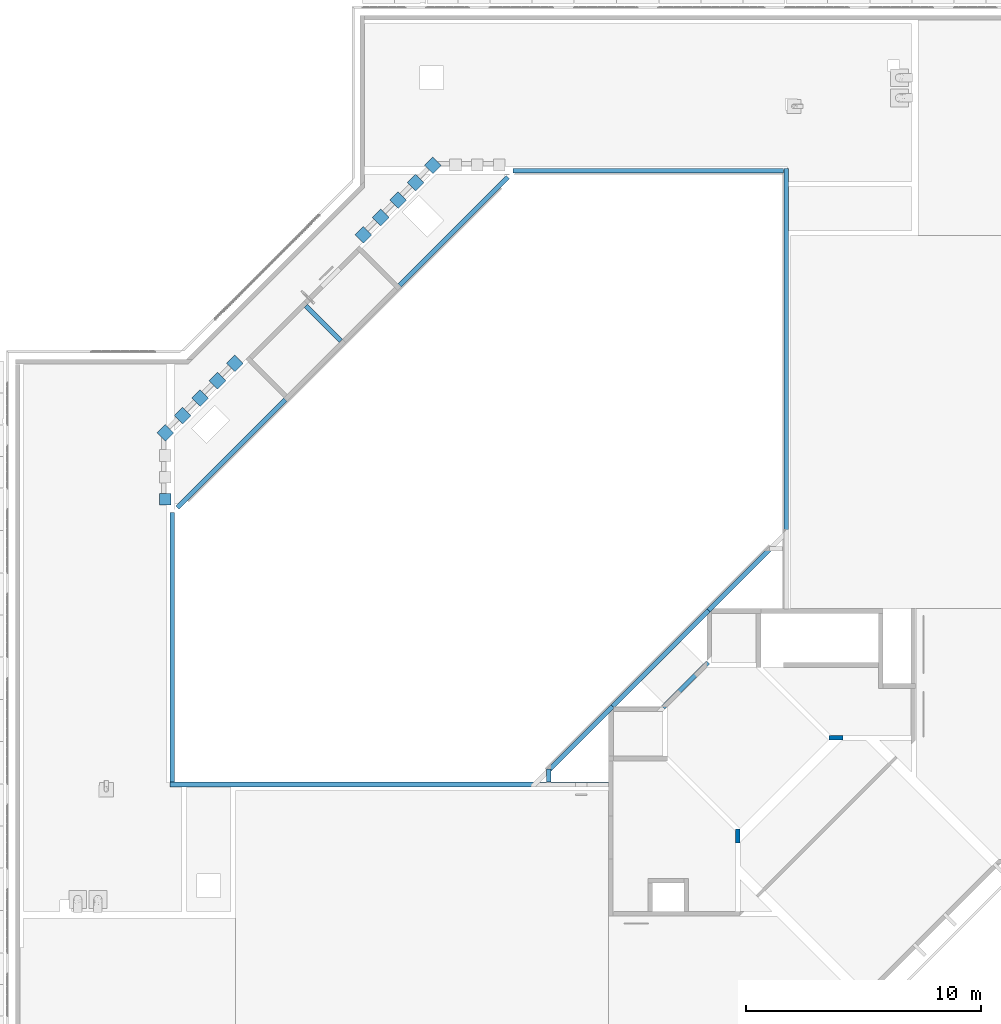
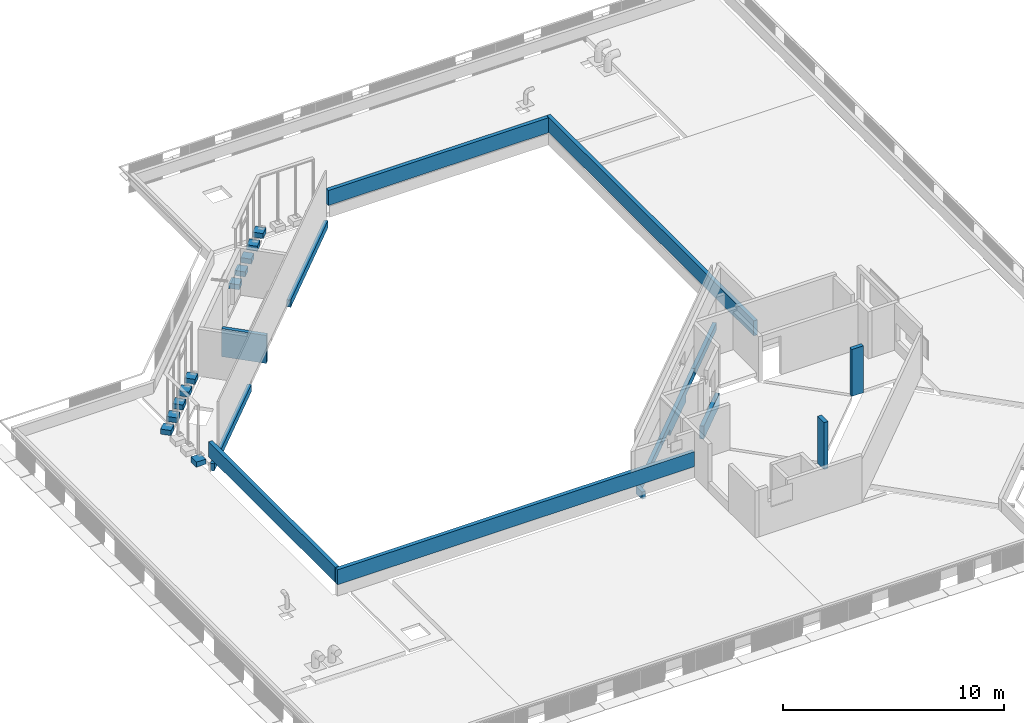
# One storey, part 1 of 37: 23 beams, 2 columns.
"""IFC4X3_ADD2 building model written with IfcOpenShell, lengths in millimetres."""

from ifc_helpers import new_model, si_unit, direction, frame, frame_2d, origin_with_axes, origin_2d_with_axis, place, context, subcontext, project, spatial, polyline, rectangle, outline, extrude, source, transform, mapped, material, type_object, type_shapes, element, save


model = new_model("IFC4X3_ADD2")

# Units and contexts
model_context = context("Model", 3, precision=1e-05, world=origin_with_axes(), true_north=direction((0.0, 1.0)))
body_context = subcontext(model_context, "Body", "Model", "MODEL_VIEW")
ifc_project = project(units=[si_unit("LENGTHUNIT", "METRE", prefix="MILLI"), si_unit("AREAUNIT", "SQUARE_METRE"), si_unit("VOLUMEUNIT", "CUBIC_METRE"), si_unit("PLANEANGLEUNIT", "RADIAN"), si_unit("TIMEUNIT", "SECOND"), si_unit("MASSUNIT", "GRAM")], contexts=[model_context])

# Site, building, storey
site_placement = place(None, origin_with_axes())
site = spatial("IfcSite", under=ifc_project, at=site_placement, Name="Site", CompositionType="ELEMENT")
building_placement = place(site_placement, origin_with_axes())
building = spatial("IfcBuilding", under=site, at=building_placement, Name="IFC Building Story")
storey_placement = place(building_placement, frame((0.0, 0.0, 14400.0), z_axis=(0.0, 0.0, 1.0), x_axis=(1.0, 0.0, 0.0)))
storey = spatial("IfcBuildingStorey", under=building, at=storey_placement, Name="040", Elevation=14400.0)

# Columns
ifc_material_1 = material(Name="<Unnamed>")
column_type_1 = type_object("IfcColumnType", Name="BB_XX_Kolom_ rechthoekig_ center-center_GTL_200 mm x 600 mm", PredefinedType="NOTDEFINED")
shared_shape_1 = source(origin_with_axes(), body_context, "Body", "SweptSolid", [
    extrude(rectangle(XDim=600.0, YDim=200.0, at=origin_2d_with_axis()), frame((-10416.0050506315, 14600.0, 14200.0), z_axis=(0.0, 0.0, 1.0), x_axis=(1.0, 0.0, 0.0)), (0.0, 0.0, 1.0), 2600.0),
])
type_shapes(column_type_1, [shared_shape_1])
column_1_placement = place(storey_placement, frame((0.0, 0.0, -14400.0), z_axis=(0.0, 0.0, 1.0), x_axis=(1.0, 0.0, 0.0)))
element("IfcColumn", 1, at=column_1_placement, inside=storey, type_object=column_type_1, material=ifc_material_1, Name="BB_XX_Kolom, rechthoekig, center-center_GTL:200 mm x 600 mm", ObjectType="200 mm x 600 mm", PredefinedType="COLUMN", context=body_context, shape_type="MappedRepresentation", body=[
    mapped(shared_shape_1, transform((0.0, 0.0, 0.0))),
])
column_type_2 = type_object("IfcColumnType", Name="BB_XX_Kolom_ rechthoekig_ center-center_GTL_200 mm x 600 mm1", PredefinedType="NOTDEFINED")
shared_shape_2 = source(origin_with_axes(), body_context, "Body", "SweptSolid", [
    extrude(rectangle(XDim=599.9999999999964, YDim=200.0, at=frame_2d((0.0, 0.0), x_axis=(0.0, 1.0))), frame((-14600.0, 10416.0050506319, 14200.0), z_axis=(0.0, 0.0, 1.0), x_axis=(1.0, 0.0, 0.0)), (0.0, 0.0, 1.0), 2600.0),
])
type_shapes(column_type_2, [shared_shape_2])
column_2_placement = place(storey_placement, frame((0.0, 0.0, -14400.0), z_axis=(0.0, 0.0, 1.0), x_axis=(1.0, 0.0, 0.0)))
element("IfcColumn", 2, at=column_2_placement, inside=storey, type_object=column_type_2, material=ifc_material_1, Name="BB_XX_Kolom, rechthoekig, center-center_GTL:200 mm x 600 mm", ObjectType="200 mm x 600 mm", PredefinedType="COLUMN", context=body_context, shape_type="MappedRepresentation", body=[
    mapped(shared_shape_2, transform((0.0, 0.0, 0.0))),
])

# Beams
ifc_material_2 = material(Name="BB_Beton_Bestaand")
beam_type_1 = type_object("IfcBeamType", Name="BB_XX_Betonbalk_ rechthoekig_ center-center_SFB_190 x 1550 mm", PredefinedType="NOTDEFINED")
shared_shape_3 = source(origin_with_axes(), body_context, "Body", "SweptSolid", [
    extrude(rectangle(XDim=2099.99999999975, YDim=190.0, at=origin_2d_with_axis()), frame((-1.250555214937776e-10, 0.0, -775.0), z_axis=(0.0, 0.0, 1.0), x_axis=(1.0, 0.0, 0.0)), (0.0, 0.0, 1.0), 1550.0),
])
type_shapes(beam_type_1, [shared_shape_3])
beam_1_placement = place(storey_placement, frame((-32264.0349954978, 32264.0349954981, -575.0), z_axis=(0.0, 0.0, 1.0), x_axis=(-0.7071067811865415, 0.7071067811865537, 0.0)))
element("IfcBeam", 3, at=beam_1_placement, inside=storey, type_object=beam_type_1, material=ifc_material_2, Name="BB_XX_Betonbalk, rechthoekig, center-center_SFB:190 x 1550 mm", ObjectType="190 x 1550 mm", PredefinedType="BEAM", context=body_context, shape_type="MappedRepresentation", body=[
    mapped(shared_shape_3, transform((0.0, 0.0, 0.0))),
])
beam_type_2 = type_object("IfcBeamType", Name="BB_XX_Betonbalk_ rechthoekig_ center-center_SFB_200 x 720 mm43", PredefinedType="NOTDEFINED")
shared_shape_4 = source(origin_with_axes(), body_context, "Body", "SweptSolid", [
    extrude(rectangle(XDim=2711.19042329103, YDim=200.0, at=frame_2d((0.0, 0.0), x_axis=(0.7069491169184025, 0.7072644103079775))), frame((-16817.81939409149, 16845.66967127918, 13480.0), z_axis=(0.0, 0.0, 1.0), x_axis=(1.0, 0.0, 0.0)), (0.0, 0.0, 1.0), 720.0),
])
type_shapes(beam_type_2, [shared_shape_4])
beam_2_placement = place(storey_placement, frame((0.0, 0.0, -14400.0), z_axis=(0.0, 0.0, 1.0), x_axis=(1.0, 0.0, 0.0)))
element("IfcBeam", 4, at=beam_2_placement, inside=storey, type_object=beam_type_2, material=ifc_material_2, Name="BB_XX_Betonbalk, rechthoekig, center-center_SFB:200 x 720 mm", ObjectType="200 x 720 mm", PredefinedType="BEAM", context=body_context, shape_type="MappedRepresentation", body=[
    mapped(shared_shape_4, transform((0.0, 0.0, 0.0))),
])
beam_type_3 = type_object("IfcBeamType", Name="BB_XX_Betonbalk_ rechthoekig_ center-center_SFB_190 x 400 mm39", PredefinedType="NOTDEFINED")
shared_shape_5 = source(origin_with_axes(), body_context, "Body", "SweptSolid", [
    extrude(rectangle(XDim=552.1070417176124, YDim=190.0, at=frame_2d((0.0, 0.0), x_axis=(0.0, 1.0))), frame((-22649.8526351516, 12983.75352086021, 13800.0), z_axis=(0.0, 0.0, 1.0), x_axis=(1.0, 0.0, 0.0)), (0.0, 0.0, 1.0), 400.0),
])
type_shapes(beam_type_3, [shared_shape_5])
beam_3_placement = place(storey_placement, frame((0.0, 0.0, -14400.0), z_axis=(0.0, 0.0, 1.0), x_axis=(1.0, 0.0, 0.0)))
element("IfcBeam", 5, at=beam_3_placement, inside=storey, type_object=beam_type_3, material=ifc_material_2, Name="BB_XX_Betonbalk, rechthoekig, center-center_SFB:190 x 400 mm", ObjectType="190 x 400 mm", PredefinedType="BEAM", context=body_context, shape_type="MappedRepresentation", body=[
    mapped(shared_shape_5, transform((0.0, 0.0, 0.0))),
])
beam_type_4 = type_object("IfcBeamType", Name="BB_XX_Betonbalk_ rechthoekig_ center-center_SFB_500 x 280 mm", PredefinedType="NOTDEFINED")
shared_shape_6 = source(origin_with_axes(), body_context, "Body", "SweptSolid", [
    extrude(rectangle(XDim=500.0, YDim=500.000000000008, at=frame_2d((0.0, 0.0), x_axis=(0.0, 1.0))), frame((1.542224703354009, 0.0, -140.0), z_axis=(0.0, 0.0, 1.0), x_axis=(1.0, 0.0, 0.0)), (0.0, 0.0, 1.0), 280.0),
])
type_shapes(beam_type_4, [shared_shape_6])
for number, where, z_axis, x_axis in (
    (6, (-39010.0, 24766.0104480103, -60.0), (0.0, 0.0, 1.0), (0.0, 1.0, 0.0)),
    (7, (-38995.5025253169, 27597.3192667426, -60.0), (0.0, 0.0, 1.0), (-0.7071067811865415, 0.7071067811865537, 0.0)),
    (8, (-38260.6002118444, 28330.0405451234, -60.0), (0.0, 0.0, 1.0), (-0.7071067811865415, 0.7071067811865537, 0.0)),
    (9, (-37519.2286091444, 29073.5931829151, -60.0), (0.0, 0.0, 1.0), (-0.7071067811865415, 0.7071067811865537, 0.0)),
    (10, (-36776.7664888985, 29816.055303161, -60.0), (0.0, 0.0, 1.0), (-0.7071067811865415, 0.7071067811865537, 0.0)),
    (11, (-36034.3043686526, 30558.5174234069, -60.0), (0.0, 0.0, 1.0), (-0.7071067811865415, 0.7071067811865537, 0.0)),
    (12, (-30558.5174234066, 36034.3043686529, -60.0), (0.0, 0.0, 1.0), (-0.7071067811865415, 0.7071067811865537, 0.0)),
    (13, (-29816.0553031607, 36776.7664888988, -60.0), (0.0, 0.0, 1.0), (-0.7071067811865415, 0.7071067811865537, 0.0)),
    (14, (-29073.5931829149, 37519.2286091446, -60.0), (0.0, 0.0, 1.0), (-0.7071067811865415, 0.7071067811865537, 0.0)),
    (15, (-28331.131062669, 38261.6907293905, -60.0), (0.0, 0.0, 1.0), (-0.7071067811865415, 0.7071067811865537, 0.0)),
    (16, (-27597.3192667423, 38995.5025253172, -60.0), (0.0, 0.0, 1.0), (-0.7071067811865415, 0.7071067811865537, 0.0)),
):
    element("IfcBeam", number, at=place(storey_placement, frame(where, z_axis=z_axis, x_axis=x_axis)), inside=storey, type_object=beam_type_4, material=ifc_material_2, Name="BB_XX_Betonbalk, rechthoekig, center-center_SFB:500 x 280 mm", ObjectType="500 x 280 mm", PredefinedType="BEAM", context=body_context, shape_type="MappedRepresentation", body=[
        mapped(shared_shape_6, transform((0.0, 0.0, 0.0))),
    ])
beam_type_5 = type_object("IfcBeamType", Name="BB_XX_Betonbalk_ rechthoekig_ center-center_SFB_190 x 400 mm43", PredefinedType="NOTDEFINED")
shared_shape_7 = source(origin_with_axes(), body_context, "Body", "SweptSolid", [
    extrude(rectangle(XDim=6518.675609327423, YDim=190.0000000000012, at=frame_2d((0.0, 0.0), x_axis=(0.7071067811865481, 0.7071067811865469))), frame((-26706.62511651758, 36187.99056660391, 13800.0), z_axis=(0.0, 0.0, 1.0), x_axis=(1.0, 0.0, 0.0)), (0.0, 0.0, 1.0), 400.0),
])
type_shapes(beam_type_5, [shared_shape_7])
beam_4_placement = place(storey_placement, frame((0.0, 0.0, -14400.0), z_axis=(0.0, 0.0, 1.0), x_axis=(1.0, 0.0, 0.0)))
element("IfcBeam", 17, at=beam_4_placement, inside=storey, type_object=beam_type_5, material=ifc_material_2, Name="BB_XX_Betonbalk, rechthoekig, center-center_SFB:190 x 400 mm", ObjectType="190 x 400 mm", PredefinedType="BEAM", context=body_context, shape_type="MappedRepresentation", body=[
    mapped(shared_shape_7, transform((0.0, 0.0, 0.0))),
])
beam_type_6 = type_object("IfcBeamType", Name="BB_XX_Betonbalk_ rechthoekig_ center-center_SFB_190 x 400 mm45", PredefinedType="NOTDEFINED")
shared_shape_8 = source(origin_with_axes(), body_context, "Body", "SweptSolid", [
    extrude(rectangle(XDim=6504.12920643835, YDim=190.0000000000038, at=frame_2d((0.0, 0.0), x_axis=(0.7071067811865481, 0.7071067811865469))), frame((-36182.84763654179, 26711.76804657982, 13800.0), z_axis=(0.0, 0.0, 1.0), x_axis=(1.0, 0.0, 0.0)), (0.0, 0.0, 1.0), 400.0),
])
type_shapes(beam_type_6, [shared_shape_8])
beam_5_placement = place(storey_placement, frame((0.0, 0.0, -14400.0), z_axis=(0.0, 0.0, 1.0), x_axis=(1.0, 0.0, 0.0)))
element("IfcBeam", 18, at=beam_5_placement, inside=storey, type_object=beam_type_6, material=ifc_material_2, Name="BB_XX_Betonbalk, rechthoekig, center-center_SFB:190 x 400 mm", ObjectType="190 x 400 mm", PredefinedType="BEAM", context=body_context, shape_type="MappedRepresentation", body=[
    mapped(shared_shape_8, transform((0.0, 0.0, 0.0))),
])
beam_type_7 = type_object("IfcBeamType", Name="BB_XX_Betonbalk_ rechthoekig_ center-center_SFB_200 x 830 mm", PredefinedType="NOTDEFINED")
shared_shape_9 = source(origin_with_axes(), body_context, "Body", "SweptSolid", [
    extrude(rectangle(XDim=11526.783353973, YDim=200.0, at=origin_2d_with_axis()), frame((-75.22947985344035, 0.0, -415.0), z_axis=(0.0, 0.0, 1.0), x_axis=(1.0, 0.0, 0.0)), (0.0, 0.0, 1.0), 830.0),
])
type_shapes(beam_type_7, [shared_shape_9])
beam_6_placement = place(storey_placement, frame((-18330.8662630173, 38769.9959341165, 835.0), z_axis=(0.0, 0.0, 1.0), x_axis=(1.0, 0.0, 0.0)))
element("IfcBeam", 19, at=beam_6_placement, inside=storey, type_object=beam_type_7, material=ifc_material_2, Name="BB_XX_Betonbalk, rechthoekig, center-center_SFB:200 x 830 mm", ObjectType="200 x 830 mm", PredefinedType="BEAM", context=body_context, shape_type="MappedRepresentation", body=[
    mapped(shared_shape_9, transform((0.0, 0.0, 0.0))),
])
beam_type_8 = type_object("IfcBeamType", Name="BB_XX_Betonbalk_ rechthoekig_ center-center_SFB_200 x 830 mm1", PredefinedType="NOTDEFINED")
shared_shape_10 = source(origin_with_axes(), body_context, "Body", "SweptSolid", [
    extrude(rectangle(XDim=18769.9959341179, YDim=200.0, at=origin_2d_with_axis()), frame((3519.13373698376, 0.0, -415.0), z_axis=(0.0, 0.0, 1.0), x_axis=(1.0, 0.0, 0.0)), (0.0, 0.0, 1.0), 830.0),
])
type_shapes(beam_type_8, [shared_shape_10])
beam_7_placement = place(storey_placement, frame((-12530.0040658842, 33004.1317040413, 835.0), z_axis=(0.0, 0.0, 1.0), x_axis=(0.0, -1.0, 0.0)))
element("IfcBeam", 20, at=beam_7_placement, inside=storey, type_object=beam_type_8, material=ifc_material_2, Name="BB_XX_Betonbalk, rechthoekig, center-center_SFB:200 x 830 mm", ObjectType="200 x 830 mm", PredefinedType="BEAM", context=body_context, shape_type="MappedRepresentation", body=[
    mapped(shared_shape_10, transform((0.0, 0.0, 0.0))),
])
beam_type_9 = type_object("IfcBeamType", Name="BB_XX_Betonbalk_ rechthoekig_ center-center_SFB_200 x 830 mm3", PredefinedType="NOTDEFINED")
shared_shape_11 = source(origin_with_axes(), body_context, "Body", "SweptSolid", [
    extrude(rectangle(XDim=11488.608017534, YDim=200.0, at=origin_2d_with_axis()), frame((-56.14384457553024, 0.0, -415.0), z_axis=(0.0, 0.0, 1.0), x_axis=(1.0, 0.0, 0.0)), (0.0, 0.0, 1.0), 830.0),
])
type_shapes(beam_type_9, [shared_shape_11])
beam_8_placement = place(storey_placement, frame((-38700.0, 18400.8642300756, 835.0), z_axis=(0.0, 0.0, 1.0), x_axis=(0.0, -1.0, 0.0)))
element("IfcBeam", 21, at=beam_8_placement, inside=storey, type_object=beam_type_9, material=ifc_material_2, Name="BB_XX_Betonbalk, rechthoekig, center-center_SFB:200 x 830 mm", ObjectType="200 x 830 mm", PredefinedType="BEAM", context=body_context, shape_type="MappedRepresentation", body=[
    mapped(shared_shape_11, transform((0.0, 0.0, 0.0))),
])
beam_type_10 = type_object("IfcBeamType", Name="BB_XX_Betonbalk_ rechthoekig_ center-center_SFB_200 x 830 mm5", PredefinedType="NOTDEFINED")
shared_shape_12 = source(origin_with_axes(), body_context, "Body", "SweptSolid", [
    extrude(rectangle(XDim=18689.9999999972, YDim=200.0, at=origin_2d_with_axis()), frame((3514.13373698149, 0.0, -415.0), z_axis=(0.0, 0.0, 1.0), x_axis=(1.0, 0.0, 0.0)), (0.0, 0.0, 1.0), 830.0),
])
type_shapes(beam_type_10, [shared_shape_12])
beam_9_placement = place(storey_placement, frame((-32969.1337369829, 12600.004065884, 835.0), z_axis=(0.0, 0.0, 1.0), x_axis=(1.0, 0.0, 0.0)))
element("IfcBeam", 22, at=beam_9_placement, inside=storey, type_object=beam_type_10, material=ifc_material_2, Name="BB_XX_Betonbalk, rechthoekig, center-center_SFB:200 x 830 mm", ObjectType="200 x 830 mm", PredefinedType="BEAM", context=body_context, shape_type="MappedRepresentation", body=[
    mapped(shared_shape_12, transform((0.0, 0.0, 0.0))),
])
beam_type_11 = type_object("IfcBeamType", Name="BB_XX_Betonbalk_ rechthoekig_ center-center_SFB_190 x 400 mm47", PredefinedType="NOTDEFINED")
shared_shape_13 = source(origin_with_axes(), body_context, "Body", "SweptSolid", [
    extrude(rectangle(XDim=3759.76592469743, YDim=189.9999999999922, at=frame_2d((0.0, 0.0), x_axis=(0.7071067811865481, 0.7071067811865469))), frame((-14511.08162038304, 21358.84076450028, 13800.0), z_axis=(0.0, 0.0, 1.0), x_axis=(1.0, 0.0, 0.0)), (0.0, 0.0, 1.0), 400.0),
])
type_shapes(beam_type_11, [shared_shape_13])
beam_10_placement = place(storey_placement, frame((0.0, 0.0, -14400.0), z_axis=(0.0, 0.0, 1.0), x_axis=(1.0, 0.0, 0.0)))
element("IfcBeam", 23, at=beam_10_placement, inside=storey, type_object=beam_type_11, material=ifc_material_2, Name="BB_XX_Betonbalk, rechthoekig, center-center_SFB:190 x 400 mm", ObjectType="190 x 400 mm", PredefinedType="BEAM", context=body_context, shape_type="MappedRepresentation", body=[
    mapped(shared_shape_13, transform((0.0, 0.0, 0.0))),
])
beam_type_12 = type_object("IfcBeamType", Name="BB_XX_Betonbalk_ rechthoekig_ center-center_SFB_190 x 400 mm49", PredefinedType="NOTDEFINED")
shared_shape_14 = source(origin_with_axes(), body_context, "Body", "SweptSolid", [
    extrude(rectangle(XDim=3882.595377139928, YDim=190.0000000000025, at=frame_2d((0.0, 0.0), x_axis=(0.7071067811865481, 0.7071067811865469))), frame((-21304.29189800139, 14565.63048688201, 13800.0), z_axis=(0.0, 0.0, 1.0), x_axis=(1.0, 0.0, 0.0)), (0.0, 0.0, 1.0), 400.0),
])
type_shapes(beam_type_12, [shared_shape_14])
beam_11_placement = place(storey_placement, frame((0.0, 0.0, -14400.0), z_axis=(0.0, 0.0, 1.0), x_axis=(1.0, 0.0, 0.0)))
element("IfcBeam", 24, at=beam_11_placement, inside=storey, type_object=beam_type_12, material=ifc_material_2, Name="BB_XX_Betonbalk, rechthoekig, center-center_SFB:190 x 400 mm", ObjectType="190 x 400 mm", PredefinedType="BEAM", context=body_context, shape_type="MappedRepresentation", body=[
    mapped(shared_shape_14, transform((0.0, 0.0, 0.0))),
])
beam_type_13 = type_object("IfcBeamType", Name="BB_XX_Betonbalk_ rechthoekig_ center-center_SFB_190 x 750 mm", PredefinedType="NOTDEFINED")
shared_shape_15 = source(origin_with_axes(), body_context, "Body", "SweptSolid", [
    extrude(outline(polyline([(2952.286069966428, -387.4999999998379), (-2933.679917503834, -387.4999999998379), (-2933.679917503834, 12.50000000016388), (-1409.610271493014, 12.50000000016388), (-1409.610271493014, 362.5000000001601), (1391.004119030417, 362.5000000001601), (1391.004119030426, 12.4999999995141), (2952.286069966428, 12.4999999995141), (2952.286069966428, -387.4999999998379)])), frame((2208.775251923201, 2074.424963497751, 362.500000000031), z_axis=(-0.7071067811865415, 0.7071067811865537, 0.0), x_axis=(0.7071067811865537, 0.7071067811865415, 0.0)), (0.0, 0.0, 1.0), 190.0000000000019),
])
type_shapes(beam_type_13, [shared_shape_15])
beam_12_placement = place(storey_placement, frame((-20069.7290507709, 15800.5689982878, -950.0), z_axis=(0.0, 0.0, 1.0), x_axis=(1.0, 0.0, 0.0)))
element("IfcBeam", 25, at=beam_12_placement, inside=storey, type_object=beam_type_13, material=ifc_material_2, Name="BB_XX_Betonbalk, rechthoekig, center-center_SFB:190 x 750 mm", ObjectType="190 x 750 mm", PredefinedType="BEAM", context=body_context, shape_type="MappedRepresentation", body=[
    mapped(shared_shape_15, transform((0.0, 0.0, 0.0))),
])

save(model, "model.ifc")
